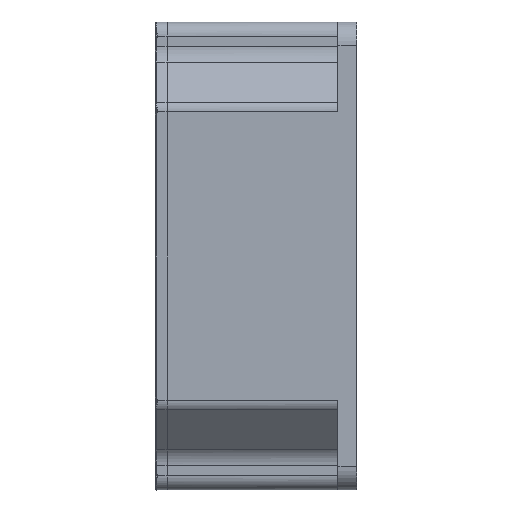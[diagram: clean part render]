
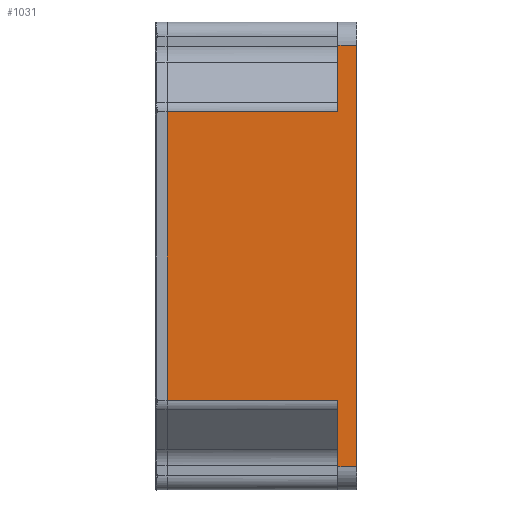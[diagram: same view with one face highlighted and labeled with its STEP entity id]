
A CAD part, left-side view. The second image highlights one B-rep face of the part: STEP entity #1031.
In plain terms, the highlighted planar face has unit normal (-1, 0, 0).
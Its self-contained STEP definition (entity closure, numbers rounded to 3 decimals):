
#23 = VERTEX_POINT ( 'NONE', #24776 ) ;
#24 = VERTEX_POINT ( 'NONE', #24777 ) ;
#373 = AXIS2_PLACEMENT_3D ( 'NONE', #6837, #6848, #6849 ) ;
#1031 = ADVANCED_FACE ( 'NONE', ( #6844 ), #6845, .T. ) ;
#2992 = ORIENTED_EDGE ( 'NONE', *, *, #8849, .T. ) ;
#2993 = ORIENTED_EDGE ( 'NONE', *, *, #18313, .F. ) ;
#2995 = ORIENTED_EDGE ( 'NONE', *, *, #18314, .F. ) ;
#2997 = ORIENTED_EDGE ( 'NONE', *, *, #18311, .T. ) ;
#2999 = ORIENTED_EDGE ( 'NONE', *, *, #8840, .T. ) ;
#3000 = ORIENTED_EDGE ( 'NONE', *, *, #8844, .T. ) ;
#3002 = ORIENTED_EDGE ( 'NONE', *, *, #8909, .T. ) ;
#3004 = ORIENTED_EDGE ( 'NONE', *, *, #8847, .T. ) ;
#5471 = CARTESIAN_POINT ( 'NONE',  ( -58.5, -36.5, 45. ) ) ;
#5476 = CARTESIAN_POINT ( 'NONE',  ( -58.5, -36.5, -30.838 ) ) ;
#5477 = CARTESIAN_POINT ( 'NONE',  ( -58.5, -36.5, 30.838 ) ) ;
#5479 = CARTESIAN_POINT ( 'NONE',  ( -58.5, 0., -30.838 ) ) ;
#5481 = CARTESIAN_POINT ( 'NONE',  ( -58.5, 0., 30.838 ) ) ;
#5482 = CARTESIAN_POINT ( 'NONE',  ( -58.5, -36.5, -45. ) ) ;
#6837 = CARTESIAN_POINT ( 'NONE',  ( -58.5, -40.5, 50. ) ) ;
#6844 = FACE_OUTER_BOUND ( 'NONE', #8377, .T. ) ;
#6845 = PLANE ( 'NONE',  #373 ) ;
#6848 = DIRECTION ( 'NONE',  ( -1., 0., 0. ) ) ;
#6849 = DIRECTION ( 'NONE',  ( 0., 0., 1. ) ) ;
#8377 = EDGE_LOOP ( 'NONE', ( #2992, #2993, #2995, #2997, #2999, #3000, #3002, #3004 ) ) ;
#8840 = EDGE_CURVE ( 'NONE', #29238, #29244, #16523, .T. ) ;
#8844 = EDGE_CURVE ( 'NONE', #29244, #29248, #16652, .T. ) ;
#8847 = EDGE_CURVE ( 'NONE', #29246, #29243, #16666, .T. ) ;
#8849 = EDGE_CURVE ( 'NONE', #29243, #29249, #16671, .T. ) ;
#8909 = EDGE_CURVE ( 'NONE', #29248, #29246, #17197, .T. ) ;
#10600 = VECTOR ( 'NONE', #25270, 1000. ) ;
#10602 = VECTOR ( 'NONE', #25281, 1000. ) ;
#10604 = VECTOR ( 'NONE', #25286, 1000. ) ;
#15854 = VECTOR ( 'NONE', #16526, 1000. ) ;
#15859 = VECTOR ( 'NONE', #16654, 1000. ) ;
#15860 = VECTOR ( 'NONE', #16668, 1000. ) ;
#15861 = VECTOR ( 'NONE', #16675, 1000. ) ;
#15918 = VECTOR ( 'NONE', #17199, 1000. ) ;
#16523 = LINE ( 'NONE', #16525, #15854 ) ;
#16525 = CARTESIAN_POINT ( 'NONE',  ( -58.5, -36.5, 50. ) ) ;
#16526 = DIRECTION ( 'NONE',  ( 0., 0., -1. ) ) ;
#16652 = LINE ( 'NONE', #16653, #15859 ) ;
#16653 = CARTESIAN_POINT ( 'NONE',  ( -58.5, -40.5, 30.838 ) ) ;
#16654 = DIRECTION ( 'NONE',  ( 0., 1., 0. ) ) ;
#16661 = CARTESIAN_POINT ( 'NONE',  ( -58.5, -36.5, 50. ) ) ;
#16666 = LINE ( 'NONE', #16667, #15860 ) ;
#16667 = CARTESIAN_POINT ( 'NONE',  ( -58.5, -40.5, -30.838 ) ) ;
#16668 = DIRECTION ( 'NONE',  ( 0., -1., 0. ) ) ;
#16671 = LINE ( 'NONE', #16661, #15861 ) ;
#16675 = DIRECTION ( 'NONE',  ( 0., 0., -1. ) ) ;
#17197 = LINE ( 'NONE', #17198, #15918 ) ;
#17198 = CARTESIAN_POINT ( 'NONE',  ( -58.5, 0., 50. ) ) ;
#17199 = DIRECTION ( 'NONE',  ( 0., 0., -1. ) ) ;
#18311 = EDGE_CURVE ( 'NONE', #24, #29238, #25266, .T. ) ;
#18313 = EDGE_CURVE ( 'NONE', #23, #29249, #25257, .T. ) ;
#18314 = EDGE_CURVE ( 'NONE', #24, #23, #25282, .T. ) ;
#24776 = CARTESIAN_POINT ( 'NONE',  ( -58.5, -40.5, -45. ) ) ;
#24777 = CARTESIAN_POINT ( 'NONE',  ( -58.5, -40.5, 45. ) ) ;
#25246 = CARTESIAN_POINT ( 'NONE',  ( -58.5, -40.5, -45. ) ) ;
#25257 = LINE ( 'NONE', #25246, #10602 ) ;
#25266 = LINE ( 'NONE', #25268, #10600 ) ;
#25268 = CARTESIAN_POINT ( 'NONE',  ( -58.5, -40.5, 45. ) ) ;
#25270 = DIRECTION ( 'NONE',  ( 0., 1., 0. ) ) ;
#25281 = DIRECTION ( 'NONE',  ( 0., 1., 0. ) ) ;
#25282 = LINE ( 'NONE', #25284, #10604 ) ;
#25284 = CARTESIAN_POINT ( 'NONE',  ( -58.5, -40.5, -50. ) ) ;
#25286 = DIRECTION ( 'NONE',  ( 0., 0., -1. ) ) ;
#29238 = VERTEX_POINT ( 'NONE', #5471 ) ;
#29243 = VERTEX_POINT ( 'NONE', #5476 ) ;
#29244 = VERTEX_POINT ( 'NONE', #5477 ) ;
#29246 = VERTEX_POINT ( 'NONE', #5479 ) ;
#29248 = VERTEX_POINT ( 'NONE', #5481 ) ;
#29249 = VERTEX_POINT ( 'NONE', #5482 ) ;
